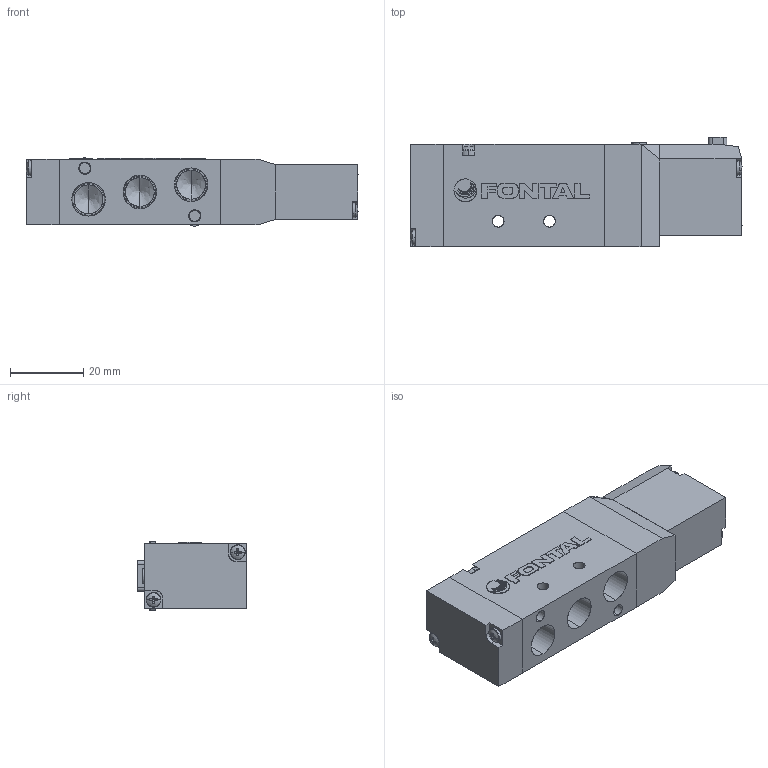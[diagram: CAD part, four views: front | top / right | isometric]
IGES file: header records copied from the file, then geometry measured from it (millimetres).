
Start section: SolidWorks IGES file using analytic representation for surfaces
Global section: file name: D:\Custom\3D繪製\PC\PC13\RCS2413-01-#-L-#.IGS,1; native system: 5HSolidWorks 2014; preprocessor: SolidWorks 2014; author: Chieh_Lu; date: 150915.184019; units: millimetre
Bounding box: 90.64 x 30 x 18.6 mm (x, y, z)
Surface area: 15857.5 mm2 (no closed solid volume)
Topology: 0 solids, 0 shells, 485 faces, 4682 edges, 4660 vertices
Faces by surface type: bspline 295, revolution 190
